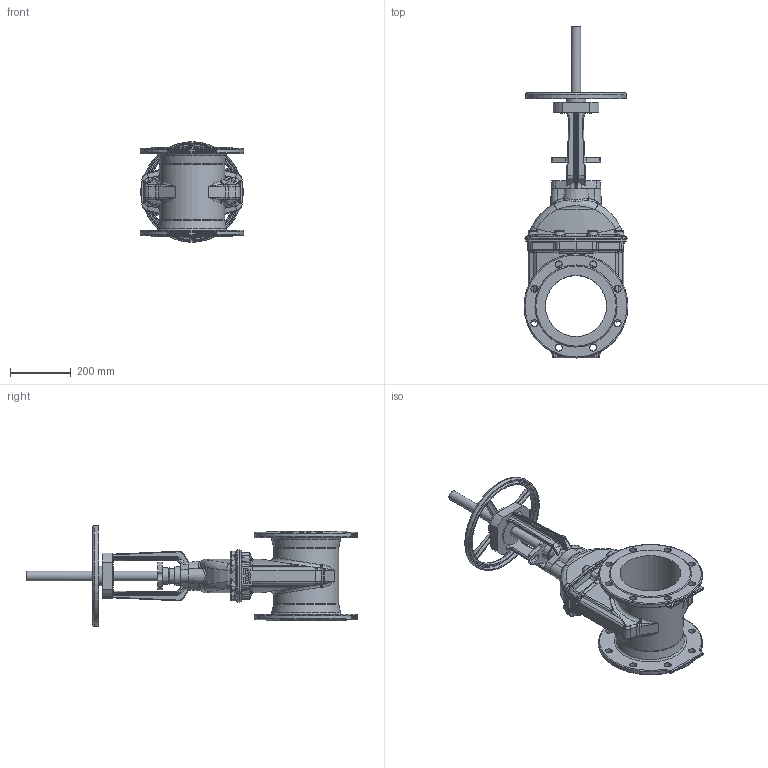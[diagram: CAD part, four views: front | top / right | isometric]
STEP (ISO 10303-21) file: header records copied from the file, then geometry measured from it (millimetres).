
FILE_DESCRIPTION (( 'STEP AP203' ), '1' );
FILE_NAME ('O_21_34_DN200_40XXXXX open_AA0.step', '2020-02-12T09:20:17', ( 'Windows User' ), ( 'AVK' ), 'SwSTEP 2.0', 'SolidWorks 2012', '' );
FILE_SCHEMA (( 'CONFIG_CONTROL_DESIGN' ));
Length unit declared in the file: millimetre
Products named in the file (1): O_21_34_DN200_40XXXXX open_AA0
Bounding box: 340 x 1088.37 x 329.91 mm (x, y, z)
Volume: 14752120.4 mm3; surface area: 1235402.4 mm2
Topology: 1 solids, 1 shells, 811 faces, 2084 edges, 1265 vertices
Faces by surface type: cylinder 215, plane 208, bspline 208, cone 100, torus 64, sphere 16
Full cylindrical faces by diameter (mm): 23 x16, 32 x2, 47.9 x1, 54 x1, 60 x1, 65 x1, 100 x1, 105 x1, 200 x1, 214 x1, 340 x2
Entity records: 34423 total; most frequent: CARTESIAN_POINT 17221, ORIENTED_EDGE 3958, DIRECTION 3066, EDGE_CURVE 1979, VERTEX_POINT 1234, AXIS2_PLACEMENT_3D 1207, EDGE_LOOP 921, FACE_OUTER_BOUND 849
